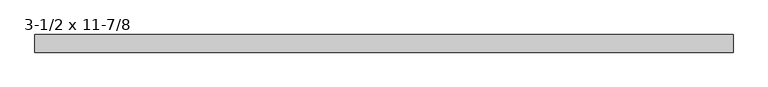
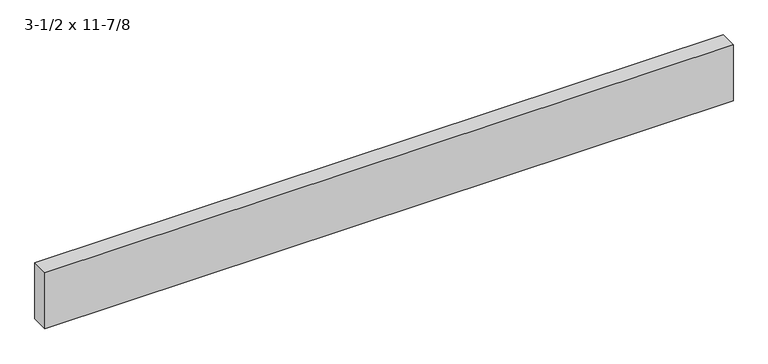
"""IFC4 building model written with IfcOpenShell, lengths in millimetres: beam geometry, Trus Joist - Parallam PSL - Beam Header : 3-1/2 x 11-7/8."""

import ifcopenshell
import ifcopenshell.guid

model = None  # the IFC model being written
_history = None  # IfcOwnerHistory: only IFC2X3 demands one
_inside = {}  # id of a spatial element -> (the spatial element, [elements in it])
_under = {}  # id of a project, library or spatial element -> (it, [spatial elements below it])
_declared = {}  # id of a project -> (the project, [libraries it declares])
_typed = {}  # id of a type object -> (the type object, [elements of that type])
_made_of = {}  # id of a material, layer set ... -> (it, [elements and type objects made of it])


def new_model(schema):
    """Start an empty IFC model of exactly this schema.

    Asked for "IFC4X3", IfcOpenShell would pick the latest addendum, in which some entities
    have other attributes; the version numbers below select the first issue.
    IFC2X3 requires an IfcOwnerHistory on every rooted entity: one is made here for all.
    """
    global model, _history
    if schema == "IFC4X3":
        model = ifcopenshell.file(schema_version=(4, 3, 0, 0))
    else:
        model = ifcopenshell.file(schema=schema)
    _inside.clear()
    _under.clear()
    _declared.clear()
    _typed.clear()
    _made_of.clear()
    _history = None
    if model.schema == "IFC2X3":
        org = make("IfcOrganization", Name="unknown")
        user = make(
            "IfcPersonAndOrganization",
            ThePerson=make("IfcPerson", FamilyName="unknown"),
            TheOrganization=org,
        )
        app = make(
            "IfcApplication",
            ApplicationDeveloper=org,
            Version="unknown",
            ApplicationFullName="unknown",
            ApplicationIdentifier="unknown",
        )
        _history = make(
            "IfcOwnerHistory",
            OwningUser=user,
            OwningApplication=app,
            ChangeAction="ADDED",
            CreationDate=0,
        )
    return model


def make(cls, **values):
    """One entity of the class cls with the attributes given. An attribute that is None is left unset."""
    return model.create_entity(
        cls, **{name: value for name, value in values.items() if value is not None}
    )


def rooted(cls, **values):
    """An entity with a GlobalId (a new one), such as an element, a storey or a relation."""
    return make(cls, GlobalId=ifcopenshell.guid.new(), OwnerHistory=_history, **values)


def si_unit(unit_type, name, prefix=None):
    """IfcSIUnit, for example si_unit("LENGTHUNIT", "METRE", prefix="MILLI")."""
    return make("IfcSIUnit", UnitType=unit_type, Prefix=prefix, Name=name)


def assignment(units):
    """IfcUnitAssignment: the units of a project."""
    return None if units is None else make("IfcUnitAssignment", Units=units)


def point(xyz):
    """IfcCartesianPoint."""
    return None if xyz is None else make("IfcCartesianPoint", Coordinates=xyz)


def direction(xyz):
    """IfcDirection."""
    return None if xyz is None else make("IfcDirection", DirectionRatios=xyz)


def frame(location, z_axis=None, x_axis=None):
    """IfcAxis2Placement3D, a coordinate frame: its origin and axes. An axis left out is left unset."""
    return make(
        "IfcAxis2Placement3D",
        Location=point(location),
        Axis=direction(z_axis),
        RefDirection=direction(x_axis),
    )


def origin():
    """The frame at (0, 0, 0) with its axes left unset."""
    return frame((0.0, 0.0, 0.0))


def place(relative_to, where):
    """IfcLocalPlacement: puts the frame where relative to a parent placement (None: the world)."""
    return make(
        "IfcLocalPlacement", PlacementRelTo=relative_to, RelativePlacement=where
    )


def context(
    kind, dimensions, precision=None, world=None, true_north=None, identifier=None
):
    """IfcGeometricRepresentationContext, for example the 3D "Model" context."""
    return make(
        "IfcGeometricRepresentationContext",
        ContextIdentifier=identifier,
        ContextType=kind,
        CoordinateSpaceDimension=dimensions,
        Precision=precision,
        WorldCoordinateSystem=world,
        TrueNorth=true_north,
    )


def project(units=None, contexts=None):
    """IfcProject with its units and contexts."""
    return rooted(
        "IfcProject",
        Name="project",
        RepresentationContexts=contexts,
        UnitsInContext=assignment(units),
    )


def spatial(cls, under=None, at=None, **own):
    """A site, building, storey or space (cls), placed at a placement, below another one or the project."""
    s = rooted(cls, ObjectPlacement=at, **own)
    if under is not None:
        _under.setdefault(under.id(), (under, []))[1].append(s)
    return s


def polyline(points):
    """IfcPolyline through the points."""
    return make("IfcPolyline", Points=[point(p) for p in points])


def outline(outer, holes=None, kind="AREA"):
    """IfcArbitraryClosedProfileDef: a profile drawn as a closed curve; with holes, ...WithVoids."""
    if holes is None:
        return make("IfcArbitraryClosedProfileDef", ProfileType=kind, OuterCurve=outer)
    return make(
        "IfcArbitraryProfileDefWithVoids",
        ProfileType=kind,
        OuterCurve=outer,
        InnerCurves=holes,
    )


def extrude(swept, where, along, depth):
    """IfcExtrudedAreaSolid: the profile swept, set in the frame where, extruded along a direction by depth."""
    return make(
        "IfcExtrudedAreaSolid",
        SweptArea=swept,
        Position=where,
        ExtrudedDirection=direction(along),
        Depth=depth,
    )


def shape(context_of_items, identifier, shape_type, items):
    """IfcShapeRepresentation: the items that make up one representation, for example the "Body"."""
    return make(
        "IfcShapeRepresentation",
        ContextOfItems=context_of_items,
        RepresentationIdentifier=identifier,
        RepresentationType=shape_type,
        Items=items,
    )


def source(mapping_origin, context_of_items, identifier, shape_type, items):
    """IfcRepresentationMap: a shape defined once, which mapped items show again and again."""
    return make(
        "IfcRepresentationMap",
        MappingOrigin=mapping_origin,
        MappedRepresentation=shape(context_of_items, identifier, shape_type, items),
    )


def transform(
    local_origin,
    x_axis=None,
    y_axis=None,
    z_axis=None,
    scale=None,
    scale2=None,
    scale3=None,
    uniform=True,
):
    """IfcCartesianTransformationOperator3D, or its non-uniform kind. x_axis, y_axis, z_axis: its Axis1, 2, 3."""
    if uniform:
        return make(
            "IfcCartesianTransformationOperator3D",
            Axis1=direction(x_axis),
            Axis2=direction(y_axis),
            LocalOrigin=point(local_origin),
            Scale=scale,
            Axis3=direction(z_axis),
        )
    return make(
        "IfcCartesianTransformationOperator3DnonUniform",
        Axis1=direction(x_axis),
        Axis2=direction(y_axis),
        LocalOrigin=point(local_origin),
        Scale=scale,
        Axis3=direction(z_axis),
        Scale2=scale2,
        Scale3=scale3,
    )


def mapped(mapping_source, mapping_target):
    """IfcMappedItem: shows the shape of a source again, moved by a transform."""
    return make(
        "IfcMappedItem", MappingSource=mapping_source, MappingTarget=mapping_target
    )


def made_of(thing, what):
    """Note that an element or type object is made of a material, layer set ...; save() writes the relation."""
    if what is not None:
        _made_of.setdefault(what.id(), (what, []))[1].append(thing)
    return thing


def element(
    cls,
    number,
    at=None,
    inside=None,
    cuts=None,
    type_object=None,
    material=None,
    context=None,
    identifier="Body",
    shape_type=None,
    held_by="IfcProductDefinitionShape",
    body=None,
    shapes=None,
    **own,
):
    """One element of the class cls, such as IfcWall. Its Tag is "e" and its number.

    at: its placement. inside: the storey or other place that contains it. cuts: it is an
    opening in that element (IfcRelVoidsElement). A single representation is given by context,
    identifier, shape_type and body (its items); several are given by shapes. held_by: the class
    of the entity that holds the representations. save() writes the other relations.
    """
    e = rooted(cls, Tag="e%d" % number, ObjectPlacement=at, **own)
    if body is not None:
        shapes = [shape(context, identifier, shape_type, body)]
    if shapes is not None:
        e.Representation = make(held_by, Representations=shapes)
    if inside is not None:
        _inside.setdefault(inside.id(), (inside, []))[1].append(e)
    if cuts is not None:
        rooted(
            "IfcRelVoidsElement", RelatingBuildingElement=cuts, RelatedOpeningElement=e
        )
    if type_object is not None:
        _typed.setdefault(type_object.id(), (type_object, []))[1].append(e)
    return made_of(e, material)


def aggregate(whole, parts):
    """IfcRelAggregates: a whole, such as a stair, and the parts it consists of."""
    return rooted("IfcRelAggregates", RelatingObject=whole, RelatedObjects=parts)


def save(model, path):
    """Write the relations noted so far, then the file.

    IfcRelAggregates (storeys below a building ...), IfcRelContainedInSpatialStructure (elements
    in a storey), IfcRelDefinesByType, IfcRelAssociatesMaterial and IfcRelDeclares: one each for
    every whole, place, type object, material and project.
    """
    for whole, parts in _under.values():
        aggregate(whole, parts)
    for where, things in _inside.values():
        rooted(
            "IfcRelContainedInSpatialStructure",
            RelatedElements=things,
            RelatingStructure=where,
        )
    for kind, things in _typed.values():
        rooted("IfcRelDefinesByType", RelatedObjects=things, RelatingType=kind)
    for what, things in _made_of.values():
        rooted("IfcRelAssociatesMaterial", RelatedObjects=things, RelatingMaterial=what)
    for by, libraries in _declared.values():
        rooted("IfcRelDeclares", RelatingContext=by, RelatedDefinitions=libraries)
    model.write(path)


def beam_3_1_2_x_11_7_8_23d30443(model_context):
    return source(origin(), model_context, "Body", "SweptSolid", [
        extrude(outline(polyline([(1766.09375, 44.45), (1766.09375, -44.45), (-1747.04375, -44.45), (-1747.04375, 44.45), (1766.09375, 44.45)])), frame((0.0, 0.0, -150.8125), z_axis=(0.0, 0.0, 1.0), x_axis=(1.0, 0.0, 0.0)), (0.0, 0.0, 1.0), 301.625),
    ])


if __name__ == "__main__":
    model = new_model("IFC4")
    model_context = context("Model", 3, world=origin())
    ifc_project = project(units=[si_unit("LENGTHUNIT", "METRE", prefix="MILLI")], contexts=[model_context])
    site = spatial("IfcSite", under=ifc_project)
    building = spatial("IfcBuilding", under=site)
    placement = place(None, origin())
    beam_3_1_2_x_11_7_8_shape = beam_3_1_2_x_11_7_8_23d30443(model_context)
    element("IfcBeam", 1, ObjectType="Trus Joist - Parallam PSL - Beam Header : 3-1/2 x 11-7/8", at=placement, inside=building, context=model_context, shape_type="MappedRepresentation", body=[
        mapped(beam_3_1_2_x_11_7_8_shape, transform((0.0, 0.0, 0.0), x_axis=(1.0, 0.0, 0.0), y_axis=(0.0, 1.0, 0.0), z_axis=(0.0, 0.0, 1.0))),
    ])
    save(model, "model.ifc")
